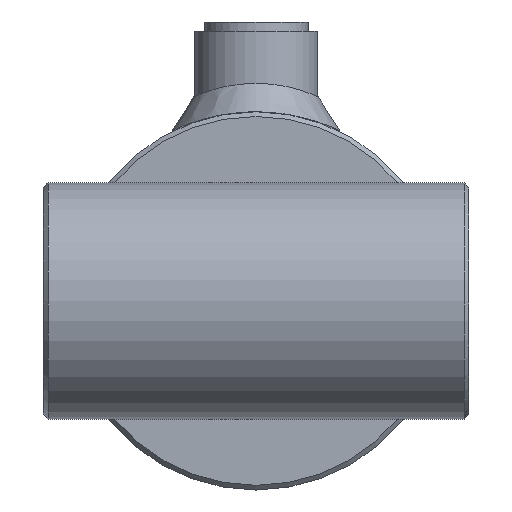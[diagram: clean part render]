
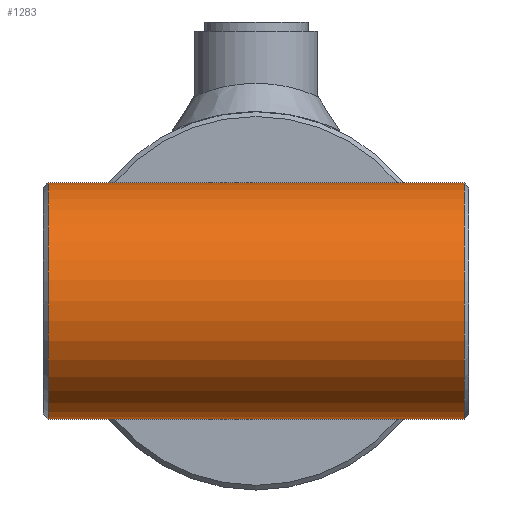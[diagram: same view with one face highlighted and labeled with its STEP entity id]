
A CAD part, left-side view. The second image highlights one B-rep face of the part: STEP entity #1283.
In plain terms, the highlighted cylindrical face has radius 25 mm (diameter 50 mm), a full revolution.
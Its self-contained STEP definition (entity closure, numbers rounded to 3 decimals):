
#1283 = ADVANCED_FACE( '', ( #2425, #2426 ), #2427, .T. );
#2425 = FACE_OUTER_BOUND( '', #7527, .T. );
#2426 = FACE_OUTER_BOUND( '', #7528, .T. );
#2427 = CYLINDRICAL_SURFACE( '', #7529, 25. );
#7527 = EDGE_LOOP( '', ( #9366 ) );
#7528 = EDGE_LOOP( '', ( #9367 ) );
#7529 = AXIS2_PLACEMENT_3D( '', #9368, #9369, #9370 );
#9366 = ORIENTED_EDGE( '', *, *, #9621, .T. );
#9367 = ORIENTED_EDGE( '', *, *, #9792, .T. );
#9368 = CARTESIAN_POINT( '', ( 0., -45., 0. ) );
#9369 = DIRECTION( '', ( 0., -1., 0. ) );
#9370 = DIRECTION( '', ( 0., 0., 1. ) );
#9621 = EDGE_CURVE( '', #10561, #10561, #10562, .F. );
#9792 = EDGE_CURVE( '', #10825, #10825, #10826, .T. );
#10561 = VERTEX_POINT( '', #12205 );
#10562 = CIRCLE( '', #12206, 25. );
#10825 = VERTEX_POINT( '', #13443 );
#10826 = CIRCLE( '', #13444, 25. );
#12205 = CARTESIAN_POINT( '', ( 0., 44., 25. ) );
#12206 = AXIS2_PLACEMENT_3D( '', #15173, #15174, #15175 );
#13443 = CARTESIAN_POINT( '', ( 0., -44., 25. ) );
#13444 = AXIS2_PLACEMENT_3D( '', #15311, #15312, #15313 );
#15173 = CARTESIAN_POINT( '', ( 0., 44., 0. ) );
#15174 = DIRECTION( '', ( 0., 1., 0. ) );
#15175 = DIRECTION( '', ( 0., 0., 1. ) );
#15311 = CARTESIAN_POINT( '', ( 0., -44., 0. ) );
#15312 = DIRECTION( '', ( 0., 1., 0. ) );
#15313 = DIRECTION( '', ( 0., 0., 1. ) );
